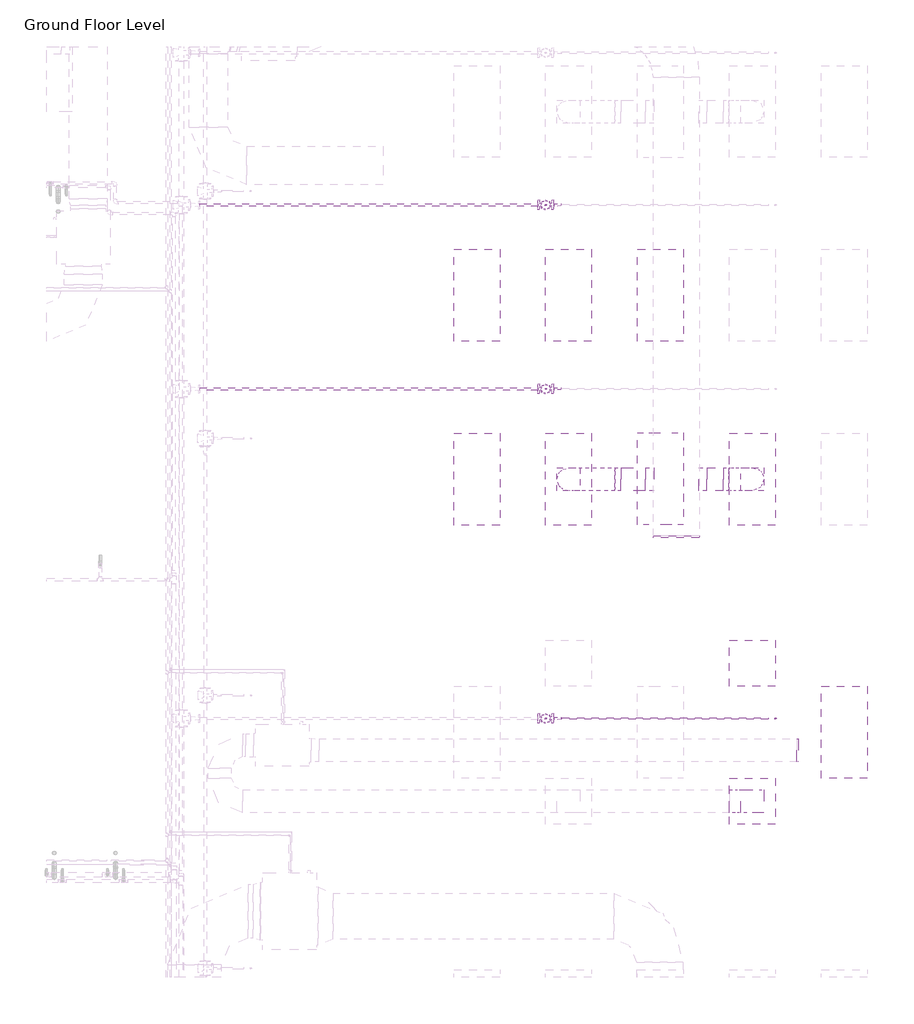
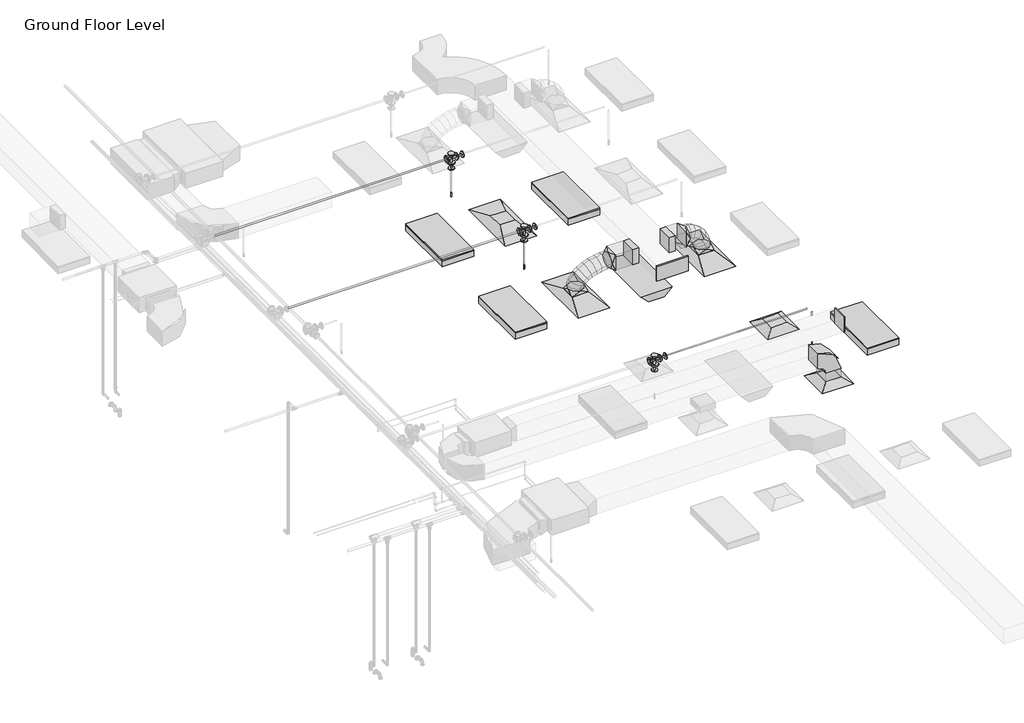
# One storey, part 22 of 68: 9 duct fittings, 9 pipe fittings, 7 pipe segments, 5 air terminals, 5 duct segments, 5 light fixtures, 3 fire suppression terminals.
"""IFC4 building model written with IfcOpenShell, lengths in millimetres."""

from ifc_helpers import new_model, si_unit, point, frame, frame_2d, origin, place, context, project, spatial, polyline, circle_curve, ellipse_curve, trimmed, segment, composite_curve, outline, extrude, transform, mapped, element, save
from ifc_brep_helpers import plane_surface, cylinder_surface, advanced_brep
from components import m_return_diffuser_1200x600_1200_x_600_face_300_x_300_d1983ef6, m_return_diffuser_600_x_600_face_300_x_300_connection_ff221211, m_rectangular_elbow_radius_1_w_618da153, m_rectangular_endcap_standard_0f0ff112, m_rectangular_endcap_standard_c319d4e7, m_rectangular_takeoff_standard_cb0ccb98, m_rectangular_takeoff_standard_2be5eba1, m_rectangular_to_round_transition_angle_45_degree_641efff0, m_sprinkler_dry_pendent_hosted_15_mm_dry_pendent_9bda8e11, m_emergency_recessed_lighting_fixture_600x1200_277_5b10b25d, m_troffer_light_parabolic_rectangular1_0600x1200mm_4_lamp_86473d4a, m_reducer_flanged_cs_class_150_standard_ccf252ad, m_tee_round_base_flanged_cs_class_150_standard_7e5987a1

model = new_model("IFC4")

# Units and contexts
model_context = context("Model", 3, world=origin())
ifc_project = project(units=[si_unit("LENGTHUNIT", "METRE", prefix="MILLI")], contexts=[model_context])

# Site, building, storey
site = spatial("IfcSite", under=ifc_project)
building = spatial("IfcBuilding", under=site)
storey = spatial("IfcBuildingStorey", under=building, Name="Ground Floor Level", Elevation=900.0)

# Air terminals
placement = place(None, origin())
m_return_diffuser_1200x600_1200_x_600_face_300_x_300_shape = m_return_diffuser_1200x600_1200_x_600_face_300_x_300_d1983ef6(model_context)
element("IfcAirTerminal", 1, ObjectType="M_Return Diffuser 1200x600 : 1200 x 600 Face 300 x 300 Connection", at=placement, inside=storey, context=model_context, shape_type="MappedRepresentation", body=[
    mapped(m_return_diffuser_1200x600_1200_x_600_face_300_x_300_shape, transform((10743.0482736, -25264.7846466, 3650.0), x_axis=(0.0, 1.0, 0.0), y_axis=(-1.0, 0.0, 0.0), z_axis=(0.0, 0.0, 1.0))),
])
m_return_diffuser_600_x_600_face_300_x_300_connection_shape = m_return_diffuser_600_x_600_face_300_x_300_connection_ff221211(model_context)
element("IfcAirTerminal", 2, ObjectType="M_Return Diffuser : 600 x 600 Face 300 x 300 Connection", at=placement, inside=storey, context=model_context, shape_type="MappedRepresentation", body=[
    mapped(m_return_diffuser_600_x_600_face_300_x_300_connection_shape, transform((13143.0482736, -31864.7846466, 3650.0), x_axis=(1.0, 0.0, 0.0), y_axis=(0.0, 1.0, 0.0), z_axis=(0.0, 0.0, 1.0))),
])
element("IfcAirTerminal", 3, ObjectType="M_Supply Diffuser 1200x600 : 1200 x 600 Face 300 x 300 Connection", at=placement, inside=storey, context=model_context, shape_type="MappedRepresentation", body=[
    mapped(m_return_diffuser_1200x600_1200_x_600_face_300_x_300_shape, transform((10743.0482736, -27664.7846466, 3650.0), x_axis=(0.0, 1.0, 0.0), y_axis=(-1.0, 0.0, 0.0), z_axis=(0.0, 0.0, 1.0))),
])
element("IfcAirTerminal", 4, ObjectType="M_Supply Diffuser 1200x600 : 1200 x 600 Face 300 x 300 Connection", at=placement, inside=storey, context=model_context, shape_type="MappedRepresentation", body=[
    mapped(m_return_diffuser_1200x600_1200_x_600_face_300_x_300_shape, transform((13143.0482736, -27664.7846466, 3650.0), x_axis=(0.0, 1.0, 0.0), y_axis=(-1.0, 0.0, 0.0), z_axis=(0.0, 0.0, 1.0))),
])
element("IfcAirTerminal", 5, ObjectType="M_Supply Diffuser : 600 x 600 Face 300 x 300 Connection", at=placement, inside=storey, context=model_context, shape_type="MappedRepresentation", body=[
    mapped(m_return_diffuser_600_x_600_face_300_x_300_connection_shape, transform((13143.0482736, -30064.7846466, 3650.0), x_axis=(1.0, 0.0, 0.0), y_axis=(0.0, 1.0, 0.0), z_axis=(0.0, 0.0, 1.0))),
])

# Duct fittings
m_rectangular_elbow_radius_1_w_shape = m_rectangular_elbow_radius_1_w_618da153(model_context)
element("IfcDuctFitting", 6, ObjectType="M_Rectangular Elbow - Radius : 1 W", at=placement, inside=storey, context=model_context, shape_type="MappedRepresentation", body=[
    mapped(m_rectangular_elbow_radius_1_w_shape, transform((13143.0482736, -31864.7846466, 4221.2), x_axis=(0.0, 0.0, 1.0), y_axis=(-1.0, 0.0, 0.0), z_axis=(0.0, -1.0, 0.0))),
])
m_rectangular_endcap_standard_shape = m_rectangular_endcap_standard_0f0ff112(model_context)
element("IfcDuctFitting", 7, ObjectType="M_Rectangular Endcap : Standard", at=placement, inside=storey, context=model_context, shape_type="MappedRepresentation", body=[
    mapped(m_rectangular_endcap_standard_shape, transform((12147.7826463, -28403.2846466, 4150.0002153), x_axis=(0.0, -1.0, 0.0), y_axis=(1.0, 0.0, 0.0), z_axis=(0.0, 0.0, 1.0))),
])
m_rectangular_endcap_standard_2_shape = m_rectangular_endcap_standard_c319d4e7(model_context)
element("IfcDuctFitting", 8, ObjectType="M_Rectangular Endcap : Standard", at=placement, inside=storey, context=model_context, shape_type="MappedRepresentation", body=[
    mapped(m_rectangular_endcap_standard_2_shape, transform((13719.2644074, -31200.1877703, 4245.9), x_axis=(0.9999999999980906, 0.0, -1.954187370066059e-06), y_axis=(0.0, 1.0000000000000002, 0.0), z_axis=(1.954187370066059e-06, 0.0, 0.9999999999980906))),
])
m_rectangular_takeoff_standard_shape = m_rectangular_takeoff_standard_cb0ccb98(model_context)
element("IfcDuctFitting", 9, ObjectType="M_Rectangular Takeoff : Standard", at=placement, inside=storey, context=model_context, shape_type="MappedRepresentation", body=[
    mapped(m_rectangular_takeoff_standard_shape, transform((12447.7826463, -27664.7846466, 4150.0), x_axis=(1.0, 0.0, 0.0), y_axis=(0.0, -1.0, 0.0), z_axis=(0.0, 0.0, -1.0))),
])
m_rectangular_takeoff_standard_2_shape = m_rectangular_takeoff_standard_2be5eba1(model_context)
element("IfcDuctFitting", 10, ObjectType="M_Rectangular Takeoff : Standard", at=placement, inside=storey, context=model_context, shape_type="MappedRepresentation", body=[
    mapped(m_rectangular_takeoff_standard_2_shape, transform((11847.7826463, -27664.7846466, 4150.0), x_axis=(-1.0, 0.0, 0.0), y_axis=(0.0, 1.0, 0.0), z_axis=(0.0, 0.0, -1.0))),
])
m_rectangular_to_round_transition_angle_45_degree_shape = m_rectangular_to_round_transition_angle_45_degree_641efff0(model_context)
element("IfcDuctFitting", 11, ObjectType="M_Rectangular to Round Transition - Angle : 45 Degree", at=placement, inside=storey, context=model_context, shape_type="MappedRepresentation", body=[
    mapped(m_rectangular_to_round_transition_angle_45_degree_shape, transform((10743.0482736, -27664.7846466, 3751.6), x_axis=(0.0, 0.0, 1.0), y_axis=(-1.0, 0.0, 0.0), z_axis=(0.0, -1.0, 0.0))),
])
element("IfcDuctFitting", 12, ObjectType="M_Rectangular to Round Transition - Angle : 45 Degree", at=placement, inside=storey, context=model_context, shape_type="MappedRepresentation", body=[
    mapped(m_rectangular_to_round_transition_angle_45_degree_shape, transform((11424.4842049, -27664.7846466, 4150.0), x_axis=(-1.0, 0.0, 0.0), y_axis=(0.0, -1.0, 0.0), z_axis=(0.0, 0.0, 1.0))),
])
element("IfcDuctFitting", 13, ObjectType="M_Rectangular to Round Transition - Angle : 45 Degree", at=placement, inside=storey, context=model_context, shape_type="MappedRepresentation", body=[
    mapped(m_rectangular_to_round_transition_angle_45_degree_shape, transform((13143.0482736, -27664.7846466, 3751.6), x_axis=(0.0, 0.0, 1.0), y_axis=(-1.0, 0.0, 0.0), z_axis=(0.0, -1.0, 0.0))),
])
element("IfcDuctFitting", 14, ObjectType="M_Rectangular to Round Transition - Angle : 45 Degree", at=placement, inside=storey, context=model_context, shape_type="MappedRepresentation", body=[
    mapped(m_rectangular_to_round_transition_angle_45_degree_shape, transform((12761.6123697, -27664.7846466, 4150.0), x_axis=(1.0, 0.0, 0.0), y_axis=(0.0, 1.0, 0.0), z_axis=(0.0, 0.0, 1.0))),
])

# Duct segments
element("IfcDuctSegment", 15, ObjectType="Flex - Round", at=placement, inside=storey, context=model_context, shape_type="AdvancedBrep", body=[
    advanced_brep(
    [(10893.0482736, -27664.7846466, 3826.6), (10743.0482736, -27814.7846466, 3826.6), (10593.0482736, -27664.7846466, 3826.6), (10743.0482736, -27514.7846466, 3826.6), (10893.0482736, -27664.7846466, 3832.4838104), (10743.0482736, -27814.7846466, 3857.3049615), (10593.0482736, -27664.7846466, 3882.1261126), (10743.0482736, -27514.7846466, 3857.3049615), (10895.1777586, -27664.7846466, 3838.7421096), (10759.7096782, -27814.7846466, 3906.2708192), (10624.2415979, -27664.7846466, 3973.7995287), (10759.7096782, -27514.7846466, 3906.2708192), (10917.1997864, -27664.7846466, 3871.1472855), (10805.5876959, -27814.7846466, 3973.7798261), (10693.9756053, -27664.7846466, 4076.4123668), (10805.5876959, -27514.7846466, 3973.7798261), (10957.142511, -27664.7846466, 3903.4915826), (10874.5230324, -27814.7846466, 4029.6013814), (10791.9035539, -27664.7846466, 4155.7111802), (10874.5230324, -27514.7846466, 4029.6013814), (11020.0646936, -27664.7846466, 3936.1928758), (10960.3563938, -27814.7846466, 4074.2098454), (10900.6480941, -27664.7846466, 4212.226815), (10960.3563938, -27514.7846466, 4074.2098454), (11098.9170855, -27664.7846466, 3963.8479616), (11056.9284859, -27814.7846466, 4108.0795788), (11014.9398863, -27664.7846466, 4252.311196), (11056.9284859, -27514.7846466, 4108.0795788), (11185.4890682, -27664.7846466, 3984.0509494), (11158.0800145, -27814.7846466, 4131.684942), (11130.6709609, -27664.7846466, 4279.3189347), (11158.0800145, -27514.7846466, 4131.684942), (11271.9732516, -27664.7846466, 3996.0504424), (11257.6516856, -27814.7846466, 4145.5002956), (11243.3301196, -27664.7846466, 4294.9501488), (11257.6516856, -27514.7846466, 4145.5002956), (11346.1345531, -27664.7846466, 4000.0), (11342.1431577, -27814.7846466, 4150.0), (11338.1517622, -27664.7846466, 4300.0), (11342.1431577, -27514.7846466, 4150.0), (11349.4842049, -27664.7846466, 4000.0), (11349.4842049, -27514.7846466, 4150.0), (11349.4842049, -27664.7846466, 4300.0), (11349.4842049, -27814.7846466, 4150.0)],
    [
        (0, 1, circle_curve(frame((10743.0482736, -27664.7846466, 3826.6), z_axis=(0.0, 0.0, -1.0), x_axis=(1.0, 0.0, 0.0)), 150.0)),
        (1, 2, circle_curve(frame((10743.0482736, -27664.7846466, 3826.6), z_axis=(0.0, 0.0, -1.0), x_axis=(1.0, 0.0, 0.0)), 150.0)),
        (2, 3, circle_curve(frame((10743.0482736, -27664.7846466, 3826.6), z_axis=(0.0, 0.0, -1.0), x_axis=(1.0, 0.0, 0.0)), 150.0)),
        (3, 0, circle_curve(frame((10743.0482736, -27664.7846466, 3826.6), z_axis=(0.0, 0.0, -1.0), x_axis=(1.0, 0.0, 0.0)), 150.0)),
        (0, 4),
        (4, 5, ellipse_curve(frame((10743.0482736, -27664.7846466, 3857.3049615), z_axis=(-0.1632543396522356, 0.0, -0.9865840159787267), x_axis=(0.9865840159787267, 0.0, -0.16325433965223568)), 152.039763, 150.0)),
        (5, 1),
        (5, 6, ellipse_curve(frame((10743.0482736, -27664.7846466, 3857.3049615), z_axis=(-0.1632543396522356, 0.0, -0.9865840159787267), x_axis=(0.9865840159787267, 0.0, -0.16325433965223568)), 152.039763, 150.0)),
        (6, 2),
        (6, 7, ellipse_curve(frame((10743.0482736, -27664.7846466, 3857.3049615), z_axis=(-0.1632543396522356, 0.0, -0.9865840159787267), x_axis=(0.9865840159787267, 0.0, -0.16325433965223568)), 152.039763, 150.0)),
        (7, 3),
        (7, 4, ellipse_curve(frame((10743.0482736, -27664.7846466, 3857.3049615), z_axis=(-0.1632543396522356, 0.0, -0.9865840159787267), x_axis=(0.9865840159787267, 0.0, -0.16325433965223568)), 152.039763, 150.0)),
        (4, 8),
        (8, 9, ellipse_curve(frame((10759.7096782, -27664.7846466, 3906.2708192), z_axis=(-0.4461280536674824, 0.0, -0.8949691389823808), x_axis=(0.8949691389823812, 0.0, -0.44612805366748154)), 151.366203, 150.0)),
        (9, 5),
        (9, 10, ellipse_curve(frame((10759.7096782, -27664.7846466, 3906.2708192), z_axis=(-0.4461280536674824, 0.0, -0.8949691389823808), x_axis=(0.8949691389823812, 0.0, -0.44612805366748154)), 151.366203, 150.0)),
        (10, 6),
        (10, 11, ellipse_curve(frame((10759.7096782, -27664.7846466, 3906.2708192), z_axis=(-0.4461280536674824, 0.0, -0.8949691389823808), x_axis=(0.8949691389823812, 0.0, -0.44612805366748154)), 151.366203, 150.0)),
        (11, 7),
        (11, 8, ellipse_curve(frame((10759.7096782, -27664.7846466, 3906.2708192), z_axis=(-0.4461280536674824, 0.0, -0.8949691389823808), x_axis=(0.8949691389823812, 0.0, -0.44612805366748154)), 151.366203, 150.0)),
        (8, 12),
        (12, 13, ellipse_curve(frame((10805.5876959, -27664.7846466, 3973.7798261), z_axis=(-0.6768758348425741, 0.0, -0.7360972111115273), x_axis=(0.7360972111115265, 0.0, -0.6768758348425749)), 151.6268352, 150.0)),
        (13, 9),
        (13, 14, ellipse_curve(frame((10805.5876959, -27664.7846466, 3973.7798261), z_axis=(-0.6768758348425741, 0.0, -0.7360972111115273), x_axis=(0.7360972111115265, 0.0, -0.6768758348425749)), 151.6268352, 150.0)),
        (14, 10),
        (14, 15, ellipse_curve(frame((10805.5876959, -27664.7846466, 3973.7798261), z_axis=(-0.6768758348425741, 0.0, -0.7360972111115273), x_axis=(0.7360972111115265, 0.0, -0.6768758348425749)), 151.6268352, 150.0)),
        (15, 11),
        (15, 12, ellipse_curve(frame((10805.5876959, -27664.7846466, 3973.7798261), z_axis=(-0.6768758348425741, 0.0, -0.7360972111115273), x_axis=(0.7360972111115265, 0.0, -0.6768758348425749)), 151.6268352, 150.0)),
        (12, 16),
        (16, 17, ellipse_curve(frame((10874.5230324, -27664.7846466, 4029.6013814), z_axis=(-0.8364738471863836, 0.0, -0.5480068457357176), x_axis=(0.5480068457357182, 0.0, -0.8364738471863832)), 150.7635884, 150.0)),
        (17, 13),
        (17, 18, ellipse_curve(frame((10874.5230324, -27664.7846466, 4029.6013814), z_axis=(-0.8364738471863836, 0.0, -0.5480068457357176), x_axis=(0.5480068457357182, 0.0, -0.8364738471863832)), 150.7635884, 150.0)),
        (18, 14),
        (18, 19, ellipse_curve(frame((10874.5230324, -27664.7846466, 4029.6013814), z_axis=(-0.8364738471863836, 0.0, -0.5480068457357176), x_axis=(0.5480068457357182, 0.0, -0.8364738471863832)), 150.7635884, 150.0)),
        (19, 15),
        (19, 16, ellipse_curve(frame((10874.5230324, -27664.7846466, 4029.6013814), z_axis=(-0.8364738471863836, 0.0, -0.5480068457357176), x_axis=(0.5480068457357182, 0.0, -0.8364738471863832)), 150.7635884, 150.0)),
        (16, 20),
        (20, 21, ellipse_curve(frame((10960.3563938, -27664.7846466, 4074.2098454), z_axis=(-0.9177957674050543, 0.0, -0.3970528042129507), x_axis=(0.3970528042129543, 0.0, -0.9177957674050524)), 150.3787384, 150.0)),
        (21, 17),
        (21, 22, ellipse_curve(frame((10960.3563938, -27664.7846466, 4074.2098454), z_axis=(-0.9177957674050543, 0.0, -0.3970528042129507), x_axis=(0.3970528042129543, 0.0, -0.9177957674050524)), 150.3787384, 150.0)),
        (22, 18),
        (22, 23, ellipse_curve(frame((10960.3563938, -27664.7846466, 4074.2098454), z_axis=(-0.9177957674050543, 0.0, -0.3970528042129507), x_axis=(0.3970528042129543, 0.0, -0.9177957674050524)), 150.3787384, 150.0)),
        (23, 19),
        (23, 20, ellipse_curve(frame((10960.3563938, -27664.7846466, 4074.2098454), z_axis=(-0.9177957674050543, 0.0, -0.3970528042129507), x_axis=(0.3970528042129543, 0.0, -0.9177957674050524)), 150.3787384, 150.0)),
        (20, 24),
        (24, 25, ellipse_curve(frame((11056.9284859, -27664.7846466, 4108.0795788), z_axis=(-0.9601411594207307, 0.0, -0.27951557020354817), x_axis=(0.2795155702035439, 0.0, -0.9601411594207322)), 150.2191795, 150.0)),
        (25, 21),
        (25, 26, ellipse_curve(frame((11056.9284859, -27664.7846466, 4108.0795788), z_axis=(-0.9601411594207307, 0.0, -0.27951557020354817), x_axis=(0.2795155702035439, 0.0, -0.9601411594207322)), 150.2191795, 150.0)),
        (26, 22),
        (26, 27, ellipse_curve(frame((11056.9284859, -27664.7846466, 4108.0795788), z_axis=(-0.9601411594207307, 0.0, -0.27951557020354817), x_axis=(0.2795155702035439, 0.0, -0.9601411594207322)), 150.2191795, 150.0)),
        (27, 23),
        (27, 24, ellipse_curve(frame((11056.9284859, -27664.7846466, 4108.0795788), z_axis=(-0.9601411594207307, 0.0, -0.27951557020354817), x_axis=(0.2795155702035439, 0.0, -0.9601411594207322)), 150.2191795, 150.0)),
        (24, 28),
        (28, 29, ellipse_curve(frame((11158.0800145, -27664.7846466, 4131.684942), z_axis=(-0.9831991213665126, 0.0, -0.1825362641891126), x_axis=(0.18253626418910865, 0.0, -0.9831991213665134)), 150.1567581, 150.0)),
        (29, 25),
        (29, 30, ellipse_curve(frame((11158.0800145, -27664.7846466, 4131.684942), z_axis=(-0.9831991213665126, 0.0, -0.1825362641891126), x_axis=(0.18253626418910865, 0.0, -0.9831991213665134)), 150.1567581, 150.0)),
        (30, 26),
        (30, 31, ellipse_curve(frame((11158.0800145, -27664.7846466, 4131.684942), z_axis=(-0.9831991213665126, 0.0, -0.1825362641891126), x_axis=(0.18253626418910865, 0.0, -0.9831991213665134)), 150.1567581, 150.0)),
        (31, 27),
        (31, 28, ellipse_curve(frame((11158.0800145, -27664.7846466, 4131.684942), z_axis=(-0.9831991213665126, 0.0, -0.1825362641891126), x_axis=(0.18253626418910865, 0.0, -0.9831991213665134)), 150.1567581, 150.0)),
        (28, 32),
        (32, 33, ellipse_curve(frame((11257.6516856, -27664.7846466, 4145.5002956), z_axis=(-0.9954398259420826, 0.0, -0.09539157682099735), x_axis=(0.09539157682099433, 0.0, -0.9954398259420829)), 150.1344926, 150.0)),
        (33, 29),
        (33, 34, ellipse_curve(frame((11257.6516856, -27664.7846466, 4145.5002956), z_axis=(-0.9954398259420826, 0.0, -0.09539157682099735), x_axis=(0.09539157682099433, 0.0, -0.9954398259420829)), 150.1344926, 150.0)),
        (34, 30),
        (34, 35, ellipse_curve(frame((11257.6516856, -27664.7846466, 4145.5002956), z_axis=(-0.9954398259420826, 0.0, -0.09539157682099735), x_axis=(0.09539157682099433, 0.0, -0.9954398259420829)), 150.1344926, 150.0)),
        (35, 31),
        (35, 32, ellipse_curve(frame((11257.6516856, -27664.7846466, 4145.5002956), z_axis=(-0.9954398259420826, 0.0, -0.09539157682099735), x_axis=(0.09539157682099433, 0.0, -0.9954398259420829)), 150.1344926, 150.0)),
        (32, 36),
        (36, 37, ellipse_curve(frame((11342.1431577, -27664.7846466, 4150.0), z_axis=(-0.9996461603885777, 0.0, -0.02659988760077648), x_axis=(0.026599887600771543, 0.0, -0.9996461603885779)), 150.0530947, 150.0)),
        (37, 33),
        (37, 38, ellipse_curve(frame((11342.1431577, -27664.7846466, 4150.0), z_axis=(-0.9996461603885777, 0.0, -0.02659988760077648), x_axis=(0.026599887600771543, 0.0, -0.9996461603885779)), 150.0530947, 150.0)),
        (38, 34),
        (38, 39, ellipse_curve(frame((11342.1431577, -27664.7846466, 4150.0), z_axis=(-0.9996461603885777, 0.0, -0.02659988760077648), x_axis=(0.026599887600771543, 0.0, -0.9996461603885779)), 150.0530947, 150.0)),
        (39, 35),
        (39, 36, ellipse_curve(frame((11342.1431577, -27664.7846466, 4150.0), z_axis=(-0.9996461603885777, 0.0, -0.02659988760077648), x_axis=(0.026599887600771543, 0.0, -0.9996461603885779)), 150.0530947, 150.0)),
        (40, 41, circle_curve(frame((11349.4842049, -27664.7846466, 4150.0), z_axis=(1.0, 0.0, 0.0), x_axis=(0.0, 0.0, -1.0)), 150.0)),
        (41, 42, circle_curve(frame((11349.4842049, -27664.7846466, 4150.0), z_axis=(1.0, 0.0, 0.0), x_axis=(0.0, 0.0, -1.0)), 150.0)),
        (42, 43, circle_curve(frame((11349.4842049, -27664.7846466, 4150.0), z_axis=(1.0, 0.0, 0.0), x_axis=(0.0, 0.0, -1.0)), 150.0)),
        (43, 40, circle_curve(frame((11349.4842049, -27664.7846466, 4150.0), z_axis=(1.0, 0.0, 0.0), x_axis=(0.0, 0.0, -1.0)), 150.0)),
        (36, 40),
        (43, 37),
        (42, 38),
        (41, 39),
    ],
    [
        plane_surface(frame((10743.0482736, -27814.7846466, 3826.6), z_axis=(0.0, 0.0, -1.0), x_axis=(1.0, 0.0, 0.0))),
        cylinder_surface(frame((10743.0482736, -27664.7846466, 3826.6), z_axis=(0.0, 0.0, -1.0), x_axis=(1.0, 0.0, 0.0)), 150.0),
        cylinder_surface(frame((10743.0482736, -27664.7846466, 3857.3049615), z_axis=(-0.32212824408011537, 0.0, -0.946696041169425), x_axis=(0.946696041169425, 0.0, -0.32212824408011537)), 150.0),
        cylinder_surface(frame((10759.7096782, -27664.7846466, 3906.2708192), z_axis=(-0.5620745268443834, 0.0, -0.827086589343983), x_axis=(0.827086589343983, 0.0, -0.5620745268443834)), 150.0),
        cylinder_surface(frame((10805.5876959, -27664.7846466, 3973.7798261), z_axis=(-0.7771524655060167, 0.0, -0.6293123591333), x_axis=(0.6293123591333, 0.0, -0.7771524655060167)), 150.0),
        cylinder_surface(frame((10874.5230324, -27664.7846466, 4029.6013814), z_axis=(-0.8873220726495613, 0.0, -0.4611502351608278), x_axis=(0.4611502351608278, 0.0, -0.8873220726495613)), 150.0),
        cylinder_surface(frame((10960.3563938, -27664.7846466, 4074.2098454), z_axis=(-0.9436464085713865, 0.0, -0.33095536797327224), x_axis=(0.33095536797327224, 0.0, -0.9436464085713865)), 150.0),
        cylinder_surface(frame((11056.9284859, -27664.7846466, 4108.0795788), z_axis=(-0.9738340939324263, 0.0, -0.22726010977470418), x_axis=(0.22726010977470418, 0.0, -0.9738340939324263)), 150.0),
        cylinder_surface(frame((11158.0800145, -27664.7846466, 4131.684942), z_axis=(-0.9905113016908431, 0.0, -0.13743129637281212), x_axis=(0.13743129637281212, 0.0, -0.9905113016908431)), 150.0),
        cylinder_surface(frame((11257.6516856, -27664.7846466, 4145.5002956), z_axis=(-0.9985848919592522, 0.0, -0.05318095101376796), x_axis=(0.05318095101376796, 0.0, -0.9985848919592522)), 150.0),
        plane_surface(frame((11349.4842049, -27664.7846466, 4000.0), z_axis=(1.0, 0.0, 0.0), x_axis=(0.0, 1.0, 0.0))),
        cylinder_surface(frame((11342.1431577, -27664.7846466, 4150.0), z_axis=(-1.0, 0.0, 0.0), x_axis=(0.0, 0.0, -1.0)), 150.0),
    ],
    [
        (0, [[1, 2, 3, 4]]),
        (1, [[-1, 5, 6, 7]]),
        (1, [[-2, -7, 8, 9]]),
        (1, [[-3, -9, 10, 11]]),
        (1, [[-4, -11, 12, -5]]),
        (2, [[-6, 13, 14, 15]]),
        (2, [[-8, -15, 16, 17]]),
        (2, [[-10, -17, 18, 19]]),
        (2, [[-12, -19, 20, -13]]),
        (3, [[-14, 21, 22, 23]]),
        (3, [[-16, -23, 24, 25]]),
        (3, [[-18, -25, 26, 27]]),
        (3, [[-20, -27, 28, -21]]),
        (4, [[-22, 29, 30, 31]]),
        (4, [[-24, -31, 32, 33]]),
        (4, [[-26, -33, 34, 35]]),
        (4, [[-28, -35, 36, -29]]),
        (5, [[-30, 37, 38, 39]]),
        (5, [[-32, -39, 40, 41]]),
        (5, [[-34, -41, 42, 43]]),
        (5, [[-36, -43, 44, -37]]),
        (6, [[-38, 45, 46, 47]]),
        (6, [[-40, -47, 48, 49]]),
        (6, [[-42, -49, 50, 51]]),
        (6, [[-44, -51, 52, -45]]),
        (7, [[-46, 53, 54, 55]]),
        (7, [[-48, -55, 56, 57]]),
        (7, [[-50, -57, 58, 59]]),
        (7, [[-52, -59, 60, -53]]),
        (8, [[-54, 61, 62, 63]]),
        (8, [[-56, -63, 64, 65]]),
        (8, [[-58, -65, 66, 67]]),
        (8, [[-60, -67, 68, -61]]),
        (9, [[-62, 69, 70, 71]]),
        (9, [[-64, -71, 72, 73]]),
        (9, [[-66, -73, 74, 75]]),
        (9, [[-68, -75, 76, -69]]),
        (10, [[77, 78, 79, 80]]),
        (11, [[-70, 81, -80, 82]]),
        (11, [[-72, -82, -79, 83]]),
        (11, [[-74, -83, -78, 84]]),
        (11, [[-76, -84, -77, -81]]),
    ],
),
])
element("IfcDuctSegment", 16, ObjectType="Flex - Round", at=placement, inside=storey, context=model_context, shape_type="AdvancedBrep", body=[
    advanced_brep(
    [(13293.0482736, -27664.7846466, 3826.6), (13143.0482736, -27814.7846466, 3826.6), (12993.0482736, -27664.7846466, 3826.6), (13143.0482736, -27514.7846466, 3826.6), (13293.0482736, -27664.7846466, 3876.0801767), (13143.0482736, -27814.7846466, 3855.2056793), (12993.0482736, -27664.7846466, 3834.331182), (13143.0482736, -27514.7846466, 3855.2056793), (13265.1827192, -27664.7846466, 3974.2594203), (13125.4356677, -27814.7846466, 3917.2605124), (12985.6886162, -27664.7846466, 3860.2616044), (13125.4356677, -27514.7846466, 3917.2605124), (13200.6413272, -27664.7846466, 4092.9659573), (13077.9530197, -27814.7846466, 4004.5920764), (12955.2647122, -27664.7846466, 3916.2181955), (13077.9530197, -27514.7846466, 4004.5920764), (13104.756489, -27664.7846466, 4195.7964668), (13008.6330843, -27814.7846466, 4078.9333843), (12912.5096796, -27664.7846466, 3962.0703018), (13008.6330843, -27514.7846466, 4078.9333843), (12990.1100986, -27664.7846466, 4267.0876603), (12925.5086161, -27814.7846466, 4130.6231281), (12860.9071335, -27664.7846466, 3994.1585959), (12925.5086161, -27514.7846466, 4130.6231281), (12893.3774283, -27664.7846466, 4300.0), (12868.5580444, -27814.7846466, 4150.0), (12843.7386605, -27664.7846466, 4000.0), (12868.5580444, -27514.7846466, 4150.0), (12836.6123697, -27664.7846466, 4300.0), (12836.6123697, -27814.7846466, 4150.0), (12836.6123697, -27664.7846466, 4000.0), (12836.6123697, -27514.7846466, 4150.0)],
    [
        (0, 1, circle_curve(frame((13143.0482736, -27664.7846466, 3826.6), z_axis=(0.0, 0.0, -1.0), x_axis=(1.0, 0.0, 0.0)), 150.0)),
        (1, 2, circle_curve(frame((13143.0482736, -27664.7846466, 3826.6), z_axis=(0.0, 0.0, -1.0), x_axis=(1.0, 0.0, 0.0)), 150.0)),
        (2, 3, circle_curve(frame((13143.0482736, -27664.7846466, 3826.6), z_axis=(0.0, 0.0, -1.0), x_axis=(1.0, 0.0, 0.0)), 150.0)),
        (3, 0, circle_curve(frame((13143.0482736, -27664.7846466, 3826.6), z_axis=(0.0, 0.0, -1.0), x_axis=(1.0, 0.0, 0.0)), 150.0)),
        (0, 4),
        (4, 5, ellipse_curve(frame((13143.0482736, -27664.7846466, 3855.2056793), z_axis=(0.13783502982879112, 0.0, -0.990455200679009), x_axis=(-0.990455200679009, 0.0, -0.1378350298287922)), 151.4455171, 150.0)),
        (5, 1),
        (5, 6, ellipse_curve(frame((13143.0482736, -27664.7846466, 3855.2056793), z_axis=(0.13783502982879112, 0.0, -0.990455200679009), x_axis=(-0.990455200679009, 0.0, -0.1378350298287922)), 151.4455171, 150.0)),
        (6, 2),
        (6, 7, ellipse_curve(frame((13143.0482736, -27664.7846466, 3855.2056793), z_axis=(0.13783502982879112, 0.0, -0.990455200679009), x_axis=(-0.990455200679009, 0.0, -0.1378350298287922)), 151.4455171, 150.0)),
        (7, 3),
        (7, 4, ellipse_curve(frame((13143.0482736, -27664.7846466, 3855.2056793), z_axis=(0.13783502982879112, 0.0, -0.990455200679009), x_axis=(-0.990455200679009, 0.0, -0.1378350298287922)), 151.4455171, 150.0)),
        (4, 8),
        (8, 9, ellipse_curve(frame((13125.4356677, -27664.7846466, 3917.2605124), z_axis=(0.37766579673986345, 0.0, -0.9259419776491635), x_axis=(-0.9259419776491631, 0.0, -0.3776657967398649)), 150.9241992, 150.0)),
        (9, 5),
        (9, 10, ellipse_curve(frame((13125.4356677, -27664.7846466, 3917.2605124), z_axis=(0.37766579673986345, 0.0, -0.9259419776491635), x_axis=(-0.9259419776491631, 0.0, -0.3776657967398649)), 150.9241992, 150.0)),
        (10, 6),
        (10, 11, ellipse_curve(frame((13125.4356677, -27664.7846466, 3917.2605124), z_axis=(0.37766579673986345, 0.0, -0.9259419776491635), x_axis=(-0.9259419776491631, 0.0, -0.3776657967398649)), 150.9241992, 150.0)),
        (11, 7),
        (11, 8, ellipse_curve(frame((13125.4356677, -27664.7846466, 3917.2605124), z_axis=(0.37766579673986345, 0.0, -0.9259419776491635), x_axis=(-0.9259419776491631, 0.0, -0.3776657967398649)), 150.9241992, 150.0)),
        (8, 12),
        (12, 13, ellipse_curve(frame((13077.9530197, -27664.7846466, 4004.5920764), z_axis=(0.584471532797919, 0.0, -0.8114142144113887), x_axis=(-0.8114142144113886, 0.0, -0.5844715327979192)), 151.2030542, 150.0)),
        (13, 9),
        (13, 14, ellipse_curve(frame((13077.9530197, -27664.7846466, 4004.5920764), z_axis=(0.584471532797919, 0.0, -0.8114142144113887), x_axis=(-0.8114142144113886, 0.0, -0.5844715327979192)), 151.2030542, 150.0)),
        (14, 10),
        (14, 15, ellipse_curve(frame((13077.9530197, -27664.7846466, 4004.5920764), z_axis=(0.584471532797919, 0.0, -0.8114142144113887), x_axis=(-0.8114142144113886, 0.0, -0.5844715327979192)), 151.2030542, 150.0)),
        (15, 11),
        (15, 12, ellipse_curve(frame((13077.9530197, -27664.7846466, 4004.5920764), z_axis=(0.584471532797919, 0.0, -0.8114142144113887), x_axis=(-0.8114142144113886, 0.0, -0.5844715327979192)), 151.2030542, 150.0)),
        (12, 16),
        (16, 17, ellipse_curve(frame((13008.6330843, -27664.7846466, 4078.9333843), z_axis=(0.7723088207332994, 0.0, -0.6352472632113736), x_axis=(-0.6352472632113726, 0.0, -0.7723088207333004)), 151.3165192, 150.0)),
        (17, 13),
        (17, 18, ellipse_curve(frame((13008.6330843, -27664.7846466, 4078.9333843), z_axis=(0.7723088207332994, 0.0, -0.6352472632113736), x_axis=(-0.6352472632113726, 0.0, -0.7723088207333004)), 151.3165192, 150.0)),
        (18, 14),
        (18, 19, ellipse_curve(frame((13008.6330843, -27664.7846466, 4078.9333843), z_axis=(0.7723088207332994, 0.0, -0.6352472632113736), x_axis=(-0.6352472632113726, 0.0, -0.7723088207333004)), 151.3165192, 150.0)),
        (19, 15),
        (19, 16, ellipse_curve(frame((13008.6330843, -27664.7846466, 4078.9333843), z_axis=(0.7723088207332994, 0.0, -0.6352472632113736), x_axis=(-0.6352472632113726, 0.0, -0.7723088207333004)), 151.3165192, 150.0)),
        (16, 20),
        (20, 21, ellipse_curve(frame((12925.5086161, -27664.7846466, 4130.6231281), z_axis=(0.9038393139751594, 0.0, -0.4278720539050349), x_axis=(-0.42787205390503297, 0.0, -0.9038393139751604)), 150.9831782, 150.0)),
        (21, 17),
        (21, 22, ellipse_curve(frame((12925.5086161, -27664.7846466, 4130.6231281), z_axis=(0.9038393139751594, 0.0, -0.4278720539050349), x_axis=(-0.42787205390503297, 0.0, -0.9038393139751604)), 150.9831782, 150.0)),
        (22, 18),
        (22, 23, ellipse_curve(frame((12925.5086161, -27664.7846466, 4130.6231281), z_axis=(0.9038393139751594, 0.0, -0.4278720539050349), x_axis=(-0.42787205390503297, 0.0, -0.9038393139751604)), 150.9831782, 150.0)),
        (23, 19),
        (23, 20, ellipse_curve(frame((12925.5086161, -27664.7846466, 4130.6231281), z_axis=(0.9038393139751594, 0.0, -0.4278720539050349), x_axis=(-0.42787205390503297, 0.0, -0.9038393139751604)), 150.9831782, 150.0)),
        (20, 24),
        (24, 25, ellipse_curve(frame((12868.5580444, -27664.7846466, 4150.0), z_axis=(0.9865858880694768, 0.0, -0.1632430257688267), x_axis=(-0.16324302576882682, 0.0, -0.9865858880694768)), 152.0394745, 150.0)),
        (25, 21),
        (25, 26, ellipse_curve(frame((12868.5580444, -27664.7846466, 4150.0), z_axis=(0.9865858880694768, 0.0, -0.1632430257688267), x_axis=(-0.16324302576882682, 0.0, -0.9865858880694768)), 152.0394745, 150.0)),
        (26, 22),
        (26, 27, ellipse_curve(frame((12868.5580444, -27664.7846466, 4150.0), z_axis=(0.9865858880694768, 0.0, -0.1632430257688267), x_axis=(-0.16324302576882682, 0.0, -0.9865858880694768)), 152.0394745, 150.0)),
        (27, 23),
        (27, 24, ellipse_curve(frame((12868.5580444, -27664.7846466, 4150.0), z_axis=(0.9865858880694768, 0.0, -0.1632430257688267), x_axis=(-0.16324302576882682, 0.0, -0.9865858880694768)), 152.0394745, 150.0)),
        (24, 28),
        (28, 29, circle_curve(frame((12836.6123697, -27664.7846466, 4150.0), z_axis=(1.0, 0.0, 0.0), x_axis=(0.0, 0.0, 1.0)), 150.0)),
        (29, 25),
        (29, 30, circle_curve(frame((12836.6123697, -27664.7846466, 4150.0), z_axis=(1.0, 0.0, 0.0), x_axis=(0.0, 0.0, 1.0)), 150.0)),
        (30, 26),
        (30, 31, circle_curve(frame((12836.6123697, -27664.7846466, 4150.0), z_axis=(1.0, 0.0, 0.0), x_axis=(0.0, 0.0, 1.0)), 150.0)),
        (31, 27),
        (31, 28, circle_curve(frame((12836.6123697, -27664.7846466, 4150.0), z_axis=(1.0, 0.0, 0.0), x_axis=(0.0, 0.0, 1.0)), 150.0)),
    ],
    [
        plane_surface(frame((13143.0482736, -27814.7846466, 3826.6), z_axis=(0.0, 0.0, -1.0), x_axis=(1.0, 0.0, 0.0))),
        cylinder_surface(frame((13143.0482736, -27664.7846466, 3826.6), z_axis=(0.0, 0.0, -1.0), x_axis=(1.0, 0.0, 0.0)), 150.0),
        cylinder_surface(frame((13143.0482736, -27664.7846466, 3855.2056793), z_axis=(0.27303884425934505, 0.0, -0.9620030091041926), x_axis=(0.9620030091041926, 0.0, 0.27303884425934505)), 150.0),
        cylinder_surface(frame((13125.4356677, -27664.7846466, 3917.2605124), z_axis=(0.4776674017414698, 0.0, -0.8785407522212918), x_axis=(0.8785407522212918, 0.0, 0.4776674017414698)), 150.0),
        cylinder_surface(frame((13077.9530197, -27664.7846466, 4004.5920764), z_axis=(0.6819749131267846, 0.0, -0.7313755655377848), x_axis=(0.7313755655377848, 0.0, 0.6819749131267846)), 150.0),
        cylinder_surface(frame((13008.6330843, -27664.7846466, 4078.9333843), z_axis=(0.8492038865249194, 0.0, -0.5280651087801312), x_axis=(0.5280651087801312, 0.0, 0.8492038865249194)), 150.0),
        cylinder_surface(frame((12925.5086161, -27664.7846466, 4130.6231281), z_axis=(0.9467034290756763, 0.0, -0.32210653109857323), x_axis=(0.32210653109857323, 0.0, 0.9467034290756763)), 150.0),
        cylinder_surface(frame((12868.5580444, -27664.7846466, 4150.0), z_axis=(1.0, 0.0, 0.0), x_axis=(0.0, 0.0, 1.0)), 150.0),
        plane_surface(frame((12836.6123697, -27664.7846466, 4000.0), z_axis=(-1.0, 0.0, 0.0), x_axis=(0.0, -1.0, 0.0))),
    ],
    [
        (0, [[1, 2, 3, 4]]),
        (1, [[-1, 5, 6, 7]]),
        (1, [[-2, -7, 8, 9]]),
        (1, [[-3, -9, 10, 11]]),
        (1, [[-4, -11, 12, -5]]),
        (2, [[-6, 13, 14, 15]]),
        (2, [[-8, -15, 16, 17]]),
        (2, [[-10, -17, 18, 19]]),
        (2, [[-12, -19, 20, -13]]),
        (3, [[-14, 21, 22, 23]]),
        (3, [[-16, -23, 24, 25]]),
        (3, [[-18, -25, 26, 27]]),
        (3, [[-20, -27, 28, -21]]),
        (4, [[-22, 29, 30, 31]]),
        (4, [[-24, -31, 32, 33]]),
        (4, [[-26, -33, 34, 35]]),
        (4, [[-28, -35, 36, -29]]),
        (5, [[-30, 37, 38, 39]]),
        (5, [[-32, -39, 40, 41]]),
        (5, [[-34, -41, 42, 43]]),
        (5, [[-36, -43, 44, -37]]),
        (6, [[-38, 45, 46, 47]]),
        (6, [[-40, -47, 48, 49]]),
        (6, [[-42, -49, 50, 51]]),
        (6, [[-44, -51, 52, -45]]),
        (7, [[-46, 53, 54, 55]]),
        (7, [[-48, -55, 56, 57]]),
        (7, [[-50, -57, 58, 59]]),
        (7, [[-52, -59, 60, -53]]),
        (8, [[-60, -58, -56, -54]]),
    ],
),
])
element("IfcDuctSegment", 17, ObjectType="Radius Elbows / Taps", at=placement, inside=storey, context=model_context, shape_type="SweptSolid", body=[
    extrude(outline(polyline([(11746.1826463, -27514.7846466), (11746.1826463, -27814.7846466), (11424.4842049, -27814.7846466), (11424.4842049, -27514.7846466), (11746.1826463, -27514.7846466)])), frame((0.0, 0.0, 4000.0), z_axis=(0.0, 0.0, 1.0), x_axis=(1.0, 0.0, 0.0)), (0.0, 0.0, 1.0), 300.0),
])
element("IfcDuctSegment", 18, ObjectType="Radius Elbows / Taps", at=placement, inside=storey, context=model_context, shape_type="SweptSolid", body=[
    extrude(outline(polyline([(12549.3826463, -27814.7846466), (12549.3826463, -27514.7846466), (12761.6123697, -27514.7846466), (12761.6123697, -27814.7846466), (12549.3826463, -27814.7846466)])), frame((0.0, 0.0, 4000.0), z_axis=(0.0, 0.0, 1.0), x_axis=(1.0, 0.0, 0.0)), (0.0, 0.0, 1.0), 300.0),
])
element("IfcDuctSegment", 19, ObjectType="Radius Elbows / Taps", at=placement, inside=storey, context=model_context, shape_type="SweptSolid", body=[
    extrude(outline(polyline([(12993.0482736, -32014.7846466), (12993.0482736, -31714.7846466), (13293.0482736, -31714.7846466), (13293.0482736, -32014.7846466), (12993.0482736, -32014.7846466)])), frame((0.0, 0.0, 3751.6), z_axis=(0.0, 0.0, 1.0), x_axis=(1.0, 0.0, 0.0)), (0.0, 0.0, 1.0), 169.6),
])

# Fire suppression terminals
m_sprinkler_dry_pendent_hosted_15_mm_dry_pendent_shape = m_sprinkler_dry_pendent_hosted_15_mm_dry_pendent_9bda8e11(model_context)
element("IfcFireSuppressionTerminal", 20, ObjectType="M_Sprinkler - Dry - Pendent - Hosted : 15 mm Dry Pendent", at=placement, inside=storey, context=model_context, shape_type="MappedRepresentation", body=[
    mapped(m_sprinkler_dry_pendent_hosted_15_mm_dry_pendent_shape, transform((10443.0482736, -24083.6779349, 3650.0), x_axis=(1.0, 0.0, 0.0), y_axis=(0.0, -1.0, 0.0), z_axis=(0.0, 0.0, -1.0))),
])
element("IfcFireSuppressionTerminal", 21, ObjectType="M_Sprinkler - Dry - Pendent - Hosted : 15 mm Dry Pendent", at=placement, inside=storey, context=model_context, shape_type="MappedRepresentation", body=[
    mapped(m_sprinkler_dry_pendent_hosted_15_mm_dry_pendent_shape, transform((10443.0482736, -26484.6295433, 3650.0), x_axis=(1.0, 0.0, 0.0), y_axis=(0.0, -1.0, 0.0), z_axis=(0.0, 0.0, -1.0))),
])
element("IfcFireSuppressionTerminal", 22, ObjectType="M_Sprinkler - Dry - Pendent - Hosted : 15 mm Dry Pendent", at=placement, inside=storey, context=model_context, shape_type="MappedRepresentation", body=[
    mapped(m_sprinkler_dry_pendent_hosted_15_mm_dry_pendent_shape, transform((13443.0482736, -30785.1783804, 3650.0), x_axis=(1.0, 0.0, 0.0), y_axis=(0.0, -1.0, 0.0), z_axis=(0.0, 0.0, -1.0))),
])

# Light fixtures
m_emergency_recessed_lighting_fixture_600x1200_277_shape = m_emergency_recessed_lighting_fixture_600x1200_277_5b10b25d(model_context)
element("IfcLightFixture", 23, ObjectType="M_Emergency Recessed Lighting Fixture : 600x1200 - 277", at=placement, inside=storey, context=model_context, shape_type="MappedRepresentation", body=[
    mapped(m_emergency_recessed_lighting_fixture_600x1200_277_shape, transform((11643.0482736, -28254.7846466, 3650.0), x_axis=(0.0, 1.0, 0.0), y_axis=(-1.0, 0.0, 0.0), z_axis=(0.0, 0.0, 1.0))),
])
m_troffer_light_parabolic_rectangular1_0600x1200mm_4_lamp_shape = m_troffer_light_parabolic_rectangular1_0600x1200mm_4_lamp_86473d4a(model_context)
element("IfcLightFixture", 24, ObjectType="M_Troffer Light - Parabolic Rectangular1 : 0600x1200mm(4 Lamp) - 277V 2", at=placement, inside=storey, context=model_context, shape_type="MappedRepresentation", body=[
    mapped(m_troffer_light_parabolic_rectangular1_0600x1200mm_4_lamp_shape, transform((9483.5823415, -25246.081145, 3650.0), x_axis=(0.0, 1.0, 0.0), y_axis=(-1.0, 0.0, 0.0), z_axis=(0.0, 0.0, 1.0))),
])
element("IfcLightFixture", 25, ObjectType="M_Troffer Light - Parabolic Rectangular1 : 0600x1200mm(4 Lamp) - 277V 2", at=placement, inside=storey, context=model_context, shape_type="MappedRepresentation", body=[
    mapped(m_troffer_light_parabolic_rectangular1_0600x1200mm_4_lamp_shape, transform((11883.5823415, -25246.081145, 3650.0), x_axis=(0.0, 1.0, 0.0), y_axis=(-1.0, 0.0, 0.0), z_axis=(0.0, 0.0, 1.0))),
])
element("IfcLightFixture", 26, ObjectType="M_Troffer Light - Parabolic Rectangular1 : 0600x1200mm(4 Lamp) - 277V 2", at=placement, inside=storey, context=model_context, shape_type="MappedRepresentation", body=[
    mapped(m_troffer_light_parabolic_rectangular1_0600x1200mm_4_lamp_shape, transform((9483.5823415, -27646.081145, 3650.0), x_axis=(0.0, 1.0, 0.0), y_axis=(-1.0, 0.0, 0.0), z_axis=(0.0, 0.0, 1.0))),
])
element("IfcLightFixture", 27, ObjectType="M_Troffer Light - Parabolic Rectangular1 : 0600x1200mm(4 Lamp) - 277V 2", at=placement, inside=storey, context=model_context, shape_type="MappedRepresentation", body=[
    mapped(m_troffer_light_parabolic_rectangular1_0600x1200mm_4_lamp_shape, transform((14283.5823415, -30946.081145, 3650.0), x_axis=(0.0, 1.0, 0.0), y_axis=(-1.0, 0.0, 0.0), z_axis=(0.0, 0.0, 1.0))),
])

# Pipe fittings
m_reducer_flanged_cs_class_150_standard_shape = m_reducer_flanged_cs_class_150_standard_ccf252ad(model_context)
element("IfcPipeFitting", 28, ObjectType="M_Reducer - Flanged - CS - Class 150 : Standard", at=placement, inside=storey, context=model_context, shape_type="MappedRepresentation", body=[
    mapped(m_reducer_flanged_cs_class_150_standard_shape, transform((10543.7568674, -30785.1783804, 4347.5), x_axis=(1.0, 0.0, 0.0), y_axis=(0.0, 0.0, 1.0), z_axis=(0.0, -1.0, 0.0))),
])
element("IfcPipeFitting", 29, ObjectType="M_Reducer - Flanged - CS - Class 150 : Standard", at=placement, inside=storey, context=model_context, shape_type="MappedRepresentation", body=[
    mapped(m_reducer_flanged_cs_class_150_standard_shape, transform((10443.0482736, -30785.1783804, 4246.7914063), x_axis=(0.0, 0.0, -1.0), y_axis=(-1.0, 0.0, 0.0), z_axis=(0.0, 1.0, 0.0))),
])
element("IfcPipeFitting", 30, ObjectType="M_Reducer - Flanged - CS - Class 150 : Standard", at=placement, inside=storey, context=model_context, shape_type="MappedRepresentation", body=[
    mapped(m_reducer_flanged_cs_class_150_standard_shape, transform((10543.7568674, -26484.6295433, 4347.5), x_axis=(1.0, 0.0, 0.0), y_axis=(0.0, 0.0, 1.0), z_axis=(0.0, -1.0, 0.0))),
])
element("IfcPipeFitting", 31, ObjectType="M_Reducer - Flanged - CS - Class 150 : Standard", at=placement, inside=storey, context=model_context, shape_type="MappedRepresentation", body=[
    mapped(m_reducer_flanged_cs_class_150_standard_shape, transform((10443.0482736, -26484.6295433, 4246.7914063), x_axis=(0.0, 0.0, -1.0), y_axis=(-1.0, 0.0, 0.0), z_axis=(0.0, 1.0, 0.0))),
])
element("IfcPipeFitting", 32, ObjectType="M_Reducer - Flanged - CS - Class 150 : Standard", at=placement, inside=storey, context=model_context, shape_type="MappedRepresentation", body=[
    mapped(m_reducer_flanged_cs_class_150_standard_shape, transform((10543.7568674, -24083.6779349, 4347.5), x_axis=(1.0, 0.0, 0.0), y_axis=(0.0, 0.0, 1.0), z_axis=(0.0, -1.0, 0.0))),
])
element("IfcPipeFitting", 33, ObjectType="M_Reducer - Flanged - CS - Class 150 : Standard", at=placement, inside=storey, context=model_context, shape_type="MappedRepresentation", body=[
    mapped(m_reducer_flanged_cs_class_150_standard_shape, transform((10443.0482736, -24083.6779349, 4246.7914063), x_axis=(0.0, 0.0, -1.0), y_axis=(-1.0, 0.0, 0.0), z_axis=(0.0, 1.0, 0.0))),
])
m_tee_round_base_flanged_cs_class_150_standard_shape = m_tee_round_base_flanged_cs_class_150_standard_7e5987a1(model_context)
element("IfcPipeFitting", 34, ObjectType="M_Tee Round Base - Flanged - CS - Class 150 : Standard", at=placement, inside=storey, context=model_context, shape_type="MappedRepresentation", body=[
    mapped(m_tee_round_base_flanged_cs_class_150_standard_shape, transform((10443.0482736, -30785.1783804, 4347.5), x_axis=(1.0, 0.0, 0.0), y_axis=(0.0, 0.0, 1.0), z_axis=(0.0, -1.0, 0.0))),
])
element("IfcPipeFitting", 35, ObjectType="M_Tee Round Base - Flanged - CS - Class 150 : Standard", at=placement, inside=storey, context=model_context, shape_type="MappedRepresentation", body=[
    mapped(m_tee_round_base_flanged_cs_class_150_standard_shape, transform((10443.0482736, -26484.6295433, 4347.5), x_axis=(1.0, 0.0, 0.0), y_axis=(0.0, 0.0, 1.0), z_axis=(0.0, -1.0, 0.0))),
])
element("IfcPipeFitting", 36, ObjectType="M_Tee Round Base - Flanged - CS - Class 150 : Standard", at=placement, inside=storey, context=model_context, shape_type="MappedRepresentation", body=[
    mapped(m_tee_round_base_flanged_cs_class_150_standard_shape, transform((10443.0482736, -24083.6779349, 4347.5), x_axis=(1.0, 0.0, 0.0), y_axis=(0.0, 0.0, 1.0), z_axis=(0.0, -1.0, 0.0))),
])

# Pipe segments
element("IfcPipeSegment", 37, ObjectType="Steel flanged", at=placement, inside=storey, context=model_context, shape_type="SweptSolid", body=[
    extrude(outline(composite_curve([segment(trimmed(circle_curve(frame_2d((13443.0482736, -30785.1783804)), 10.668), [point((13432.3802736, -30785.1783804))], [point((13443.0482736, -30774.5103804))], False, "CARTESIAN"), True, "CONTINUOUS"), segment(trimmed(circle_curve(frame_2d((13443.0482736, -30785.1783804)), 10.668), [point((13443.0482736, -30774.5103804))], [point((13453.7162736, -30785.1783804))], False, "CARTESIAN"), True, "CONTINUOUS"), segment(trimmed(circle_curve(frame_2d((13443.0482736, -30785.1783804)), 10.668), [point((13453.7162736, -30785.1783804))], [point((13443.0482736, -30795.8463804))], False, "CARTESIAN"), True, "CONTINUOUS"), segment(trimmed(circle_curve(frame_2d((13443.0482736, -30785.1783804)), 10.668), [point((13443.0482736, -30795.8463804))], [point((13432.3802736, -30785.1783804))], False, "CARTESIAN"), True, "CONTINUOUS")], self_intersect=False)), frame((0.0, 0.0, 3650.0), z_axis=(0.0, 0.0, 1.0), x_axis=(1.0, 0.0, 0.0)), (0.0, 0.0, 1.0), 604.4914062),
])
element("IfcPipeSegment", 38, ObjectType="Steel flanged", at=placement, inside=storey, context=model_context, shape_type="SweptSolid", body=[
    extrude(outline(composite_curve([segment(trimmed(circle_curve(frame_2d((10443.0482736, -30785.1783804)), 10.668), [point((10432.3802736, -30785.1783804))], [point((10443.0482736, -30774.5103804))], False, "CARTESIAN"), True, "CONTINUOUS"), segment(trimmed(circle_curve(frame_2d((10443.0482736, -30785.1783804)), 10.668), [point((10443.0482736, -30774.5103804))], [point((10453.7162736, -30785.1783804))], False, "CARTESIAN"), True, "CONTINUOUS"), segment(trimmed(circle_curve(frame_2d((10443.0482736, -30785.1783804)), 10.668), [point((10453.7162736, -30785.1783804))], [point((10443.0482736, -30795.8463804))], False, "CARTESIAN"), True, "CONTINUOUS"), segment(trimmed(circle_curve(frame_2d((10443.0482736, -30785.1783804)), 10.668), [point((10443.0482736, -30795.8463804))], [point((10432.3802736, -30785.1783804))], False, "CARTESIAN"), True, "CONTINUOUS")], self_intersect=False)), frame((0.0, 0.0, 3650.0), z_axis=(0.0, 0.0, 1.0), x_axis=(1.0, 0.0, 0.0)), (0.0, 0.0, 1.0), 482.7914062),
])
element("IfcPipeSegment", 39, ObjectType="Steel flanged", at=placement, inside=storey, context=model_context, shape_type="SweptSolid", body=[
    extrude(outline(composite_curve([segment(trimmed(circle_curve(frame_2d((-30785.1783804, 4347.5)), 10.668), [point((-30774.5103804, 4347.5))], [point((-30785.1783804, 4336.832))], False, "CARTESIAN"), True, "CONTINUOUS"), segment(trimmed(circle_curve(frame_2d((-30785.1783804, 4347.5)), 10.668), [point((-30785.1783804, 4336.832))], [point((-30795.8463804, 4347.5))], False, "CARTESIAN"), True, "CONTINUOUS"), segment(trimmed(circle_curve(frame_2d((-30785.1783804, 4347.5)), 10.668), [point((-30795.8463804, 4347.5))], [point((-30785.1783804, 4358.168))], False, "CARTESIAN"), True, "CONTINUOUS"), segment(trimmed(circle_curve(frame_2d((-30785.1783804, 4347.5)), 10.668), [point((-30785.1783804, 4358.168))], [point((-30774.5103804, 4347.5))], False, "CARTESIAN"), True, "CONTINUOUS")], self_intersect=False)), frame((10657.7568674, 0.0, 0.0), z_axis=(1.0, 0.0, 0.0), x_axis=(0.0, 1.0, 0.0)), (0.0, 0.0, 1.0), 2692.2828125),
])
element("IfcPipeSegment", 40, ObjectType="Steel flanged", at=placement, inside=storey, context=model_context, shape_type="SweptSolid", body=[
    extrude(outline(composite_curve([segment(trimmed(circle_curve(frame_2d((10443.0482736, -26484.6295433)), 10.668), [point((10432.3802736, -26484.6295433))], [point((10443.0482736, -26473.9615433))], False, "CARTESIAN"), True, "CONTINUOUS"), segment(trimmed(circle_curve(frame_2d((10443.0482736, -26484.6295433)), 10.668), [point((10443.0482736, -26473.9615433))], [point((10453.7162736, -26484.6295433))], False, "CARTESIAN"), True, "CONTINUOUS"), segment(trimmed(circle_curve(frame_2d((10443.0482736, -26484.6295433)), 10.668), [point((10453.7162736, -26484.6295433))], [point((10443.0482736, -26495.2975433))], False, "CARTESIAN"), True, "CONTINUOUS"), segment(trimmed(circle_curve(frame_2d((10443.0482736, -26484.6295433)), 10.668), [point((10443.0482736, -26495.2975433))], [point((10432.3802736, -26484.6295433))], False, "CARTESIAN"), True, "CONTINUOUS")], self_intersect=False)), frame((0.0, 0.0, 3650.0), z_axis=(0.0, 0.0, 1.0), x_axis=(1.0, 0.0, 0.0)), (0.0, 0.0, 1.0), 482.7914062),
])
element("IfcPipeSegment", 41, ObjectType="Steel flanged", at=placement, inside=storey, context=model_context, shape_type="SweptSolid", body=[
    extrude(outline(composite_curve([segment(trimmed(circle_curve(frame_2d((-26484.6295433, 4347.5)), 16.7005), [point((-26467.9290433, 4347.5))], [point((-26484.6295433, 4330.7995))], False, "CARTESIAN"), True, "CONTINUOUS"), segment(trimmed(circle_curve(frame_2d((-26484.6295433, 4347.5)), 16.7005), [point((-26484.6295433, 4330.7995))], [point((-26501.3300433, 4347.5))], False, "CARTESIAN"), True, "CONTINUOUS"), segment(trimmed(circle_curve(frame_2d((-26484.6295433, 4347.5)), 16.7005), [point((-26501.3300433, 4347.5))], [point((-26484.6295433, 4364.2005))], False, "CARTESIAN"), True, "CONTINUOUS"), segment(trimmed(circle_curve(frame_2d((-26484.6295433, 4347.5)), 16.7005), [point((-26484.6295433, 4364.2005))], [point((-26467.9290433, 4347.5))], False, "CARTESIAN"), True, "CONTINUOUS")], self_intersect=False)), frame((5925.6174894, 0.0, 0.0), z_axis=(1.0, 0.0, 0.0), x_axis=(0.0, 1.0, 0.0)), (0.0, 0.0, 1.0), 4416.7221905),
])
element("IfcPipeSegment", 42, ObjectType="Steel flanged", at=placement, inside=storey, context=model_context, shape_type="SweptSolid", body=[
    extrude(outline(composite_curve([segment(trimmed(circle_curve(frame_2d((10443.0482736, -24083.6779349)), 10.668), [point((10432.3802736, -24083.6779349))], [point((10443.0482736, -24073.0099349))], False, "CARTESIAN"), True, "CONTINUOUS"), segment(trimmed(circle_curve(frame_2d((10443.0482736, -24083.6779349)), 10.668), [point((10443.0482736, -24073.0099349))], [point((10453.7162736, -24083.6779349))], False, "CARTESIAN"), True, "CONTINUOUS"), segment(trimmed(circle_curve(frame_2d((10443.0482736, -24083.6779349)), 10.668), [point((10453.7162736, -24083.6779349))], [point((10443.0482736, -24094.3459349))], False, "CARTESIAN"), True, "CONTINUOUS"), segment(trimmed(circle_curve(frame_2d((10443.0482736, -24083.6779349)), 10.668), [point((10443.0482736, -24094.3459349))], [point((10432.3802736, -24083.6779349))], False, "CARTESIAN"), True, "CONTINUOUS")], self_intersect=False)), frame((0.0, 0.0, 3650.0), z_axis=(0.0, 0.0, 1.0), x_axis=(1.0, 0.0, 0.0)), (0.0, 0.0, 1.0), 482.7914062),
])
element("IfcPipeSegment", 43, ObjectType="Steel flanged", at=placement, inside=storey, context=model_context, shape_type="SweptSolid", body=[
    extrude(outline(composite_curve([segment(trimmed(circle_curve(frame_2d((-24083.6779349, 4347.5)), 16.7005), [point((-24066.9774349, 4347.5))], [point((-24083.6779349, 4330.7995))], False, "CARTESIAN"), True, "CONTINUOUS"), segment(trimmed(circle_curve(frame_2d((-24083.6779349, 4347.5)), 16.7005), [point((-24083.6779349, 4330.7995))], [point((-24100.3784349, 4347.5))], False, "CARTESIAN"), True, "CONTINUOUS"), segment(trimmed(circle_curve(frame_2d((-24083.6779349, 4347.5)), 16.7005), [point((-24100.3784349, 4347.5))], [point((-24083.6779349, 4364.2005))], False, "CARTESIAN"), True, "CONTINUOUS"), segment(trimmed(circle_curve(frame_2d((-24083.6779349, 4347.5)), 16.7005), [point((-24083.6779349, 4364.2005))], [point((-24066.9774349, 4347.5))], False, "CARTESIAN"), True, "CONTINUOUS")], self_intersect=False)), frame((5925.6174894, 0.0, 0.0), z_axis=(1.0, 0.0, 0.0), x_axis=(0.0, 1.0, 0.0)), (0.0, 0.0, 1.0), 4416.7221905),
])

save(model, "model.ifc")
